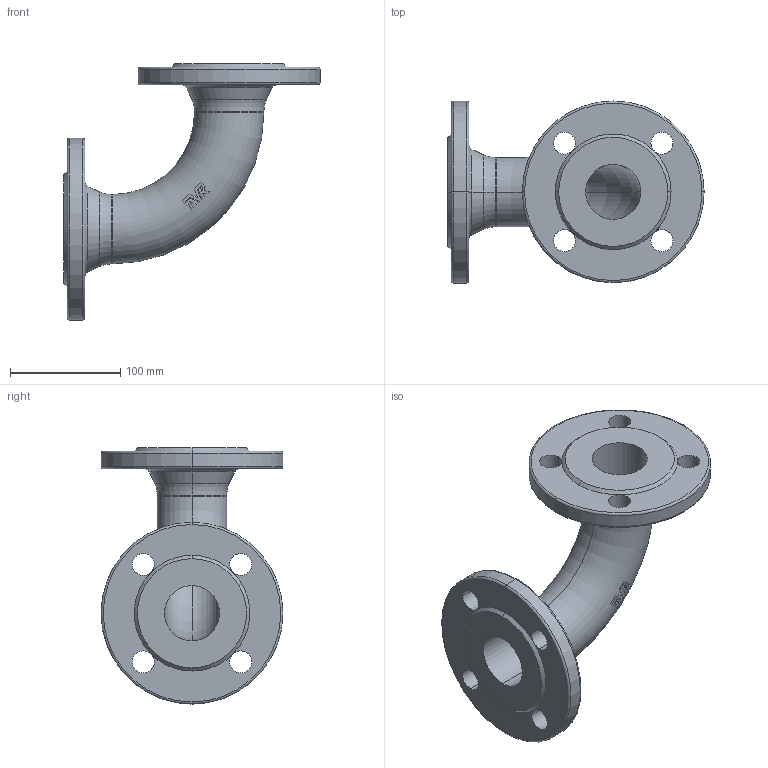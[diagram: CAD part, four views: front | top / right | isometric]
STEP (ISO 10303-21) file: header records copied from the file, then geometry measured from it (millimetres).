
FILE_DESCRIPTION (( 'STEP AP203' ), '1' );
FILE_NAME ('O_712_0610_DN50_1X_REV01.step', '2021-11-19T09:49:57', ( '' ), ( '' ), 'SwSTEP 2.0', 'SolidWorks 2019', '' );
FILE_SCHEMA (( 'CONFIG_CONTROL_DESIGN' ));
Length unit declared in the file: millimetre
Products named in the file (1): O_712_0610_DN50_1X_REV01
Bounding box: 232.5 x 165 x 232.5 mm (x, y, z)
Volume: 901949.1 mm3; surface area: 174677.5 mm2
Topology: 1 solids, 1 shells, 103 faces, 267 edges, 166 vertices
Faces by surface type: plane 41, cylinder 30, torus 24, cone 8
Entity records: 3390 total; most frequent: CARTESIAN_POINT 809, ORIENTED_EDGE 534, DIRECTION 521, EDGE_CURVE 267, AXIS2_PLACEMENT_3D 224, VERTEX_POINT 166, EDGE_LOOP 121, CIRCLE 120
